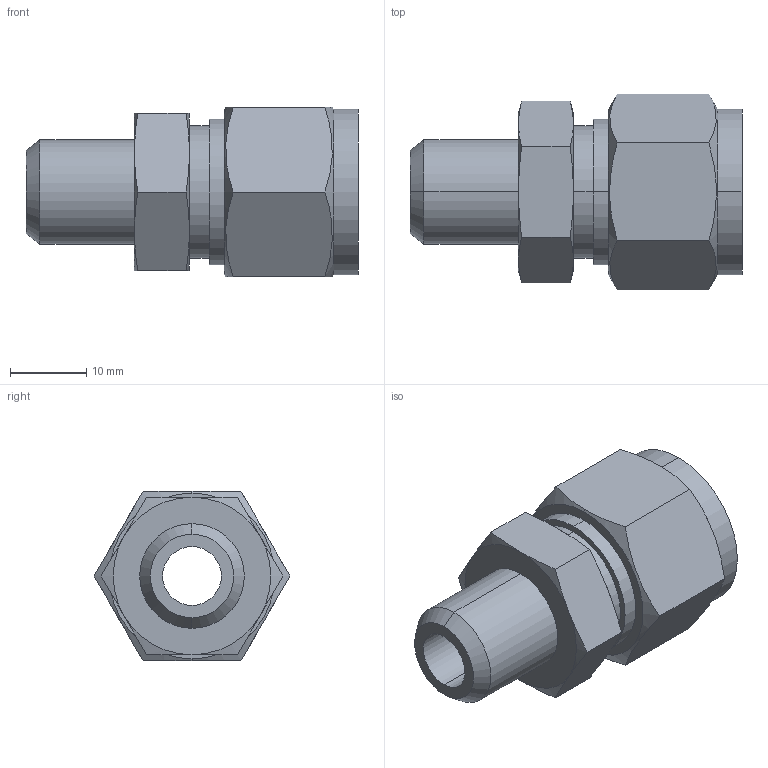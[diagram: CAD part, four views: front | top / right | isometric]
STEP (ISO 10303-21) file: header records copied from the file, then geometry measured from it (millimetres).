
FILE_DESCRIPTION (( 'STEP AP203' ), '1' );
FILE_NAME ('DCB08-04 SS.STEP', '2009-09-08T04:47:26', ( ' ' ), ( '' ), 'SwSTEP 2.0', 'SolidWorks 2008', '' );
FILE_SCHEMA (( 'CONFIG_CONTROL_DESIGN' ));
Length unit declared in the file: millimetre
Products named in the file (1): DCB08-04 SS
Bounding box: 43.5 x 25.67 x 22.23 mm (x, y, z)
Volume: 9179.4 mm3; surface area: 5035.2 mm2
Topology: 1 solids, 1 shells, 53 faces, 118 edges, 72 vertices
Faces by surface type: cone 20, plane 19, cylinder 14
Entity records: 1713 total; most frequent: CARTESIAN_POINT 500, ORIENTED_EDGE 236, DIRECTION 230, EDGE_CURVE 118, AXIS2_PLACEMENT_3D 98, VERTEX_POINT 72, EDGE_LOOP 60, FACE_OUTER_BOUND 53
